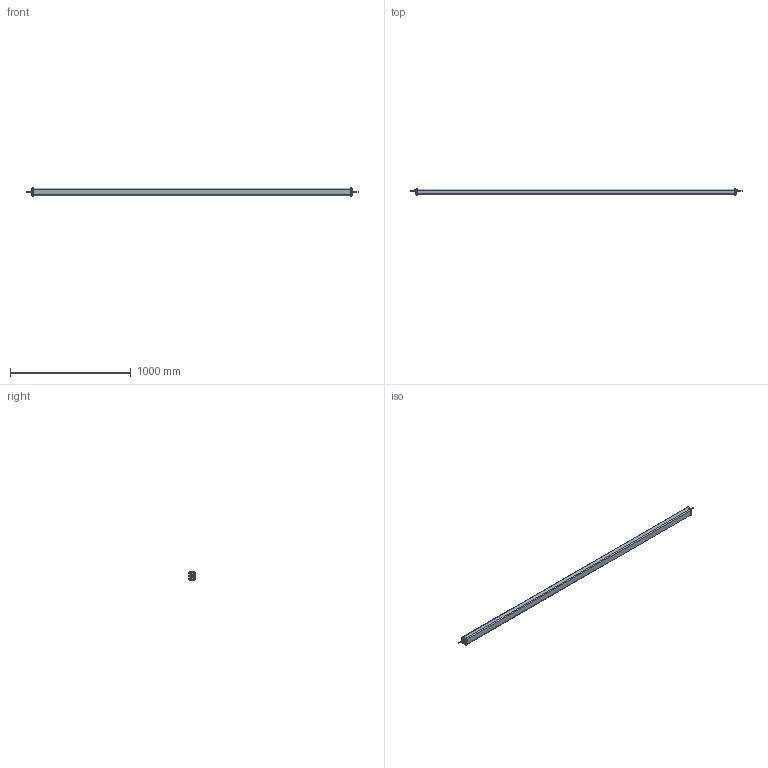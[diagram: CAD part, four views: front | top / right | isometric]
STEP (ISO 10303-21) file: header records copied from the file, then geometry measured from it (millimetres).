
FILE_DESCRIPTION (( 'STEP AP214' ), '1' );
FILE_NAME ('EFFI-FLEX2-IP69K-2600.STEP', '2024-12-12T12:36:13', ( '' ), ( '' ), 'SwSTEP 2.0', 'SolidWorks 2024', '' );
FILE_SCHEMA (( 'AUTOMOTIVE_DESIGN' ));
Length unit declared in the file: millimetre
Products named in the file (1): EFFI-FLEX2-IP69K-2600
Bounding box: 2753.39 x 52.96 x 69.5 mm (x, y, z)
Surface area: 560186.8 mm2 (no closed solid volume)
Topology: 0 solids, 39 shells, 189 faces, 707 edges, 525 vertices
Faces by surface type: cylinder 63, plane 53, torus 48, cone 16, bspline 9
Entity records: 11072 total; most frequent: CARTESIAN_POINT 3231, DIRECTION 1263, ORIENTED_EDGE 975, EDGE_CURVE 705, VERTEX_POINT 525, AXIS2_PLACEMENT_3D 521, CIRCLE 340, VECTOR 221
